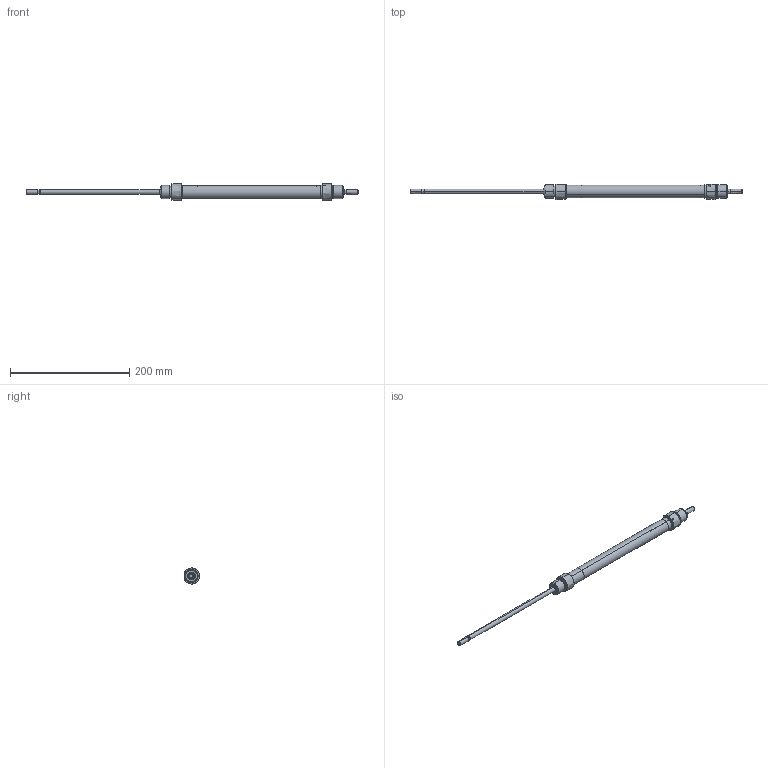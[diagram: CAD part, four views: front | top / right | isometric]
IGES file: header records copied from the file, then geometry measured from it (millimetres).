
Start section: SolidWorks IGES file using analytic representation for surfaces
Global section: file name: K:\Disegni Esecutivi\Cilindri\2_DISEGNI_cilindri_in_produzione\2_Minicilindri ISO 6432\1Minisolidworks\5_minicilindri iso 6432_20 solidworks\complessivi solid 20\20cplx3d\ML020\ML020_PIENO\ML0200200A.igs; native system: SolidWorks 2011; preprocessor: SolidWorks 2011; author: cad01; date: 110505.181145; units: millimetre
Bounding box: 556 x 25.2 x 27 mm (x, y, z)
Surface area: 48593.5 mm2 (no closed solid volume)
Topology: 0 solids, 0 shells, 273 faces, 3804 edges, 3800 vertices
Faces by surface type: revolution 166, bspline 107
